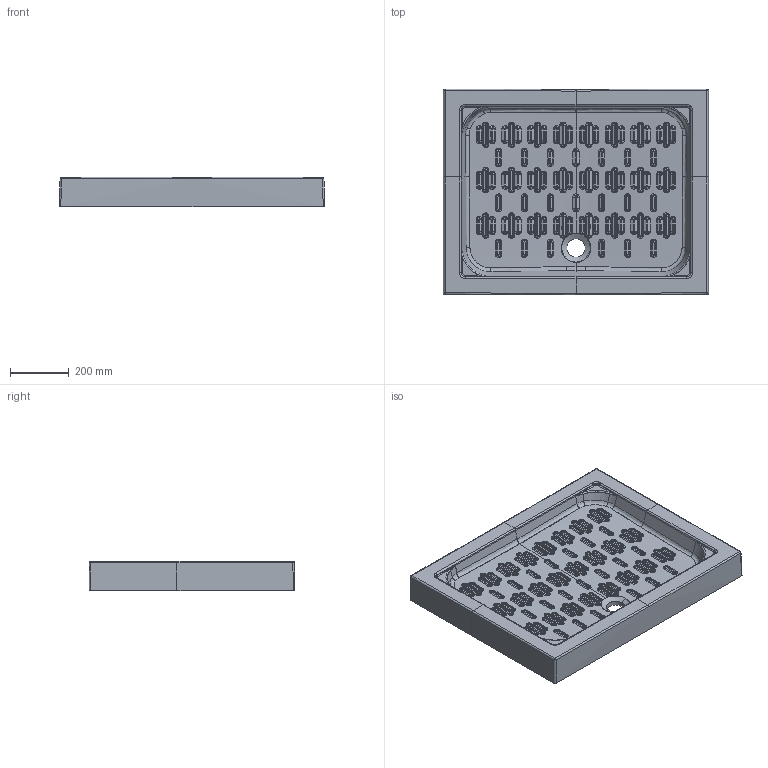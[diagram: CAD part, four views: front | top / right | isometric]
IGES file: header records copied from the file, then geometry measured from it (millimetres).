
Start section: START RECORD GO HERE.
Global section: file name: 3D ART 1026 PD RODI 70 X 90.igs; native system: DASSAULT SYSTEMES CATIA V5 R19 - www.3ds.com; preprocessor: CATIA Version 5 Release 19 SP 5 ; author: Luca; organization: DESKTOP-V7SON24; date: 20201008.101709; units: millimetre
Bounding box: 905.24 x 702.65 x 100.45 mm (x, y, z)
Surface area: 1049951.4 mm2 (no closed solid volume)
Topology: 0 solids, 0 shells, 1347 faces, 6216 edges, 6204 vertices
Faces by surface type: bspline 1311, revolution 22, plane 13, extrusion 1
